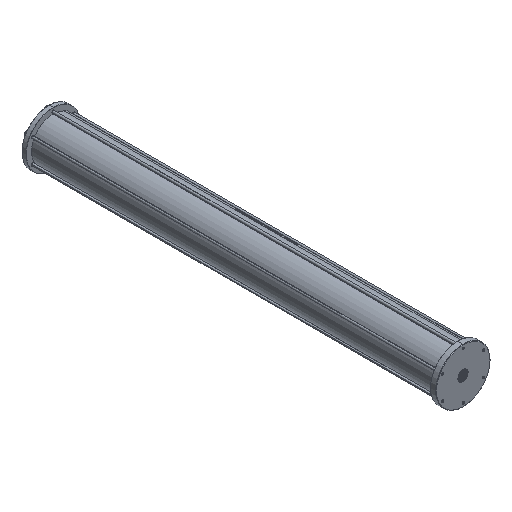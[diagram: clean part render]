
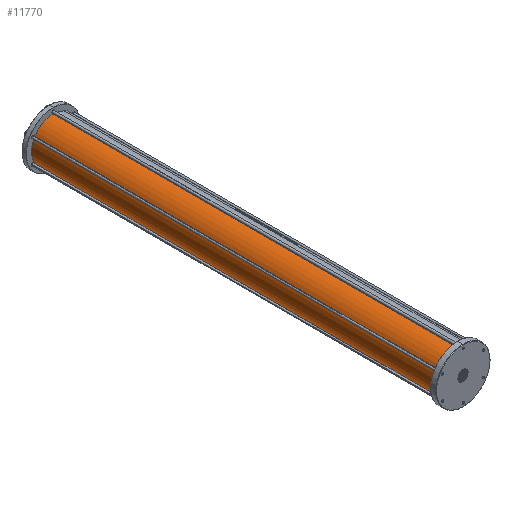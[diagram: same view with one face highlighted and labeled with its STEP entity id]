
A CAD part, isometric view. The second image highlights one B-rep face of the part: STEP entity #11770.
In plain terms, the highlighted cylindrical face has radius 75 mm (diameter 150 mm), a partial arc.
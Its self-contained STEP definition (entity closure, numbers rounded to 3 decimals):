
#179 = ORIENTED_EDGE ( 'NONE', *, *, #30308, .F. ) ;
#181 = CYLINDRICAL_SURFACE ( 'NONE', #24163, 75. ) ;
#781 = DIRECTION ( 'NONE',  ( 0., -1., 0. ) ) ;
#871 = CARTESIAN_POINT ( 'NONE',  ( 40.045, 1449.458, 101.617 ) ) ;
#1507 = VERTEX_POINT ( 'NONE', #6591 ) ;
#2249 = CARTESIAN_POINT ( 'NONE',  ( 40.045, 26.458, 26.617 ) ) ;
#3688 = ORIENTED_EDGE ( 'NONE', *, *, #30775, .T. ) ;
#3790 = DIRECTION ( 'NONE',  ( 0., 1., 0. ) ) ;
#4541 = VECTOR ( 'NONE', #781, 1000. ) ;
#4649 = LINE ( 'NONE', #33342, #13650 ) ;
#6591 = CARTESIAN_POINT ( 'NONE',  ( 40.045, 1449.458, 26.617 ) ) ;
#8201 = VERTEX_POINT ( 'NONE', #2249 ) ;
#10176 = ORIENTED_EDGE ( 'NONE', *, *, #24126, .F. ) ;
#11098 = ORIENTED_EDGE ( 'NONE', *, *, #31068, .T. ) ;
#11311 = CARTESIAN_POINT ( 'NONE',  ( 40.045, 1449.458, 176.617 ) ) ;
#11569 = DIRECTION ( 'NONE',  ( 0., 0., -1. ) ) ;
#11770 = ADVANCED_FACE ( 'NONE', ( #29789 ), #181, .T. ) ;
#13650 = VECTOR ( 'NONE', #33517, 1000. ) ;
#14485 = DIRECTION ( 'NONE',  ( 0., 0., 1. ) ) ;
#15103 = AXIS2_PLACEMENT_3D ( 'NONE', #31832, #34635, #23943 ) ;
#15310 = AXIS2_PLACEMENT_3D ( 'NONE', #27759, #3790, #14485 ) ;
#21129 = VERTEX_POINT ( 'NONE', #24881 ) ;
#22332 = LINE ( 'NONE', #11311, #4541 ) ;
#22813 = EDGE_LOOP ( 'NONE', ( #10176, #179, #3688, #11098 ) ) ;
#23943 = DIRECTION ( 'NONE',  ( 0., 0., 1. ) ) ;
#24126 = EDGE_CURVE ( 'NONE', #30117, #21129, #22332, .T. ) ;
#24163 = AXIS2_PLACEMENT_3D ( 'NONE', #871, #30487, #11569 ) ;
#24881 = CARTESIAN_POINT ( 'NONE',  ( 40.045, 26.458, 176.617 ) ) ;
#27759 = CARTESIAN_POINT ( 'NONE',  ( 40.045, 1449.458, 101.617 ) ) ;
#28691 = CIRCLE ( 'NONE', #15310, 75. ) ;
#29013 = CARTESIAN_POINT ( 'NONE',  ( 40.045, 1449.458, 176.617 ) ) ;
#29789 = FACE_OUTER_BOUND ( 'NONE', #22813, .T. ) ;
#30117 = VERTEX_POINT ( 'NONE', #29013 ) ;
#30308 = EDGE_CURVE ( 'NONE', #1507, #30117, #28691, .T. ) ;
#30487 = DIRECTION ( 'NONE',  ( 0., -1., 0. ) ) ;
#30775 = EDGE_CURVE ( 'NONE', #1507, #8201, #4649, .T. ) ;
#31068 = EDGE_CURVE ( 'NONE', #8201, #21129, #34095, .T. ) ;
#31832 = CARTESIAN_POINT ( 'NONE',  ( 40.045, 26.458, 101.617 ) ) ;
#33342 = CARTESIAN_POINT ( 'NONE',  ( 40.045, 1449.458, 26.617 ) ) ;
#33517 = DIRECTION ( 'NONE',  ( 0., -1., 0. ) ) ;
#34095 = CIRCLE ( 'NONE', #15103, 75. ) ;
#34635 = DIRECTION ( 'NONE',  ( 0., 1., 0. ) ) ;
